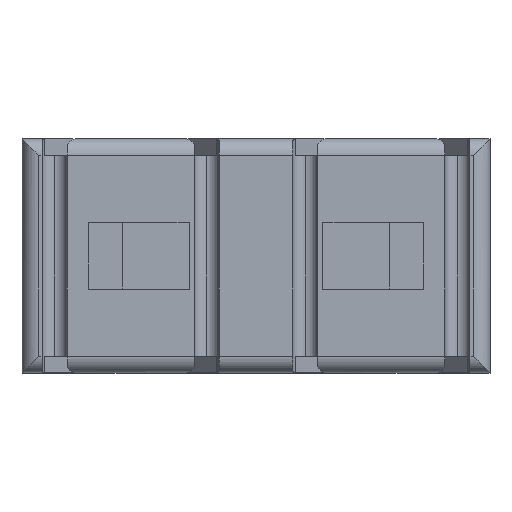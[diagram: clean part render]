
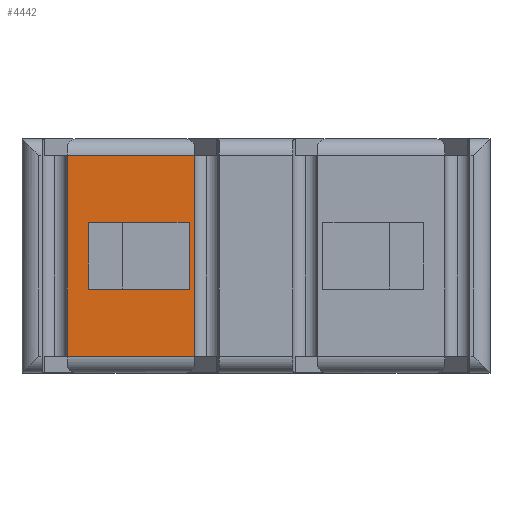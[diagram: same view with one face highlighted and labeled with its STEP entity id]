
A CAD part, top view. The second image highlights one B-rep face of the part: STEP entity #4442.
In plain terms, the highlighted planar face has unit normal (0, 0, 1).
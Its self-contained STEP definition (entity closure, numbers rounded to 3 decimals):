
#14 = VERTEX_POINT ( 'NONE', #2333 ) ;
#15 = LINE ( 'NONE', #3518, #2974 ) ;
#67 = VECTOR ( 'NONE', #3976, 1000. ) ;
#110 = VECTOR ( 'NONE', #3406, 1000. ) ;
#175 = ORIENTED_EDGE ( 'NONE', *, *, #4266, .F. ) ;
#307 = EDGE_CURVE ( 'NONE', #1642, #5678, #15, .T. ) ;
#425 = DIRECTION ( 'NONE',  ( 0., 0., -1. ) ) ;
#570 = DIRECTION ( 'NONE',  ( 0., -1., 0. ) ) ;
#622 = VECTOR ( 'NONE', #570, 1000. ) ;
#715 = VERTEX_POINT ( 'NONE', #1915 ) ;
#886 = DIRECTION ( 'NONE',  ( 0., -1., 0. ) ) ;
#943 = FACE_BOUND ( 'NONE', #1922, .T. ) ;
#1106 = CARTESIAN_POINT ( 'NONE',  ( -10., 2., 42. ) ) ;
#1133 = CARTESIAN_POINT ( 'NONE',  ( 14., 6., 42. ) ) ;
#1179 = DIRECTION ( 'NONE',  ( 0., 1., 0. ) ) ;
#1384 = FACE_OUTER_BOUND ( 'NONE', #2539, .T. ) ;
#1397 = ORIENTED_EDGE ( 'NONE', *, *, #3241, .F. ) ;
#1429 = DIRECTION ( 'NONE',  ( 0., -1., 0. ) ) ;
#1442 = EDGE_CURVE ( 'NONE', #2942, #5678, #1861, .T. ) ;
#1449 = LINE ( 'NONE', #4000, #67 ) ;
#1565 = CARTESIAN_POINT ( 'NONE',  ( -3.7, -6., 42. ) ) ;
#1603 = VECTOR ( 'NONE', #1179, 1000. ) ;
#1642 = VERTEX_POINT ( 'NONE', #1565 ) ;
#1681 = CARTESIAN_POINT ( 'NONE',  ( -11.3, -6., 42. ) ) ;
#1701 = LINE ( 'NONE', #1133, #4506 ) ;
#1808 = ORIENTED_EDGE ( 'NONE', *, *, #4659, .T. ) ;
#1848 = ORIENTED_EDGE ( 'NONE', *, *, #3316, .F. ) ;
#1861 = LINE ( 'NONE', #3248, #3841 ) ;
#1914 = VERTEX_POINT ( 'NONE', #2364 ) ;
#1915 = CARTESIAN_POINT ( 'NONE',  ( -4., 2., 42. ) ) ;
#1922 = EDGE_LOOP ( 'NONE', ( #4304, #175, #4717, #1848 ) ) ;
#2063 = AXIS2_PLACEMENT_3D ( 'NONE', #4389, #425, #886 ) ;
#2333 = CARTESIAN_POINT ( 'NONE',  ( -3.7, 6., 42. ) ) ;
#2364 = CARTESIAN_POINT ( 'NONE',  ( -10., -2., 42. ) ) ;
#2425 = EDGE_CURVE ( 'NONE', #5048, #715, #5143, .T. ) ;
#2539 = EDGE_LOOP ( 'NONE', ( #2653, #3287, #1397, #1808 ) ) ;
#2541 = CARTESIAN_POINT ( 'NONE',  ( -4., 2., 42. ) ) ;
#2569 = LINE ( 'NONE', #2541, #110 ) ;
#2653 = ORIENTED_EDGE ( 'NONE', *, *, #1442, .T. ) ;
#2685 = PLANE ( 'NONE',  #2063 ) ;
#2705 = CARTESIAN_POINT ( 'NONE',  ( -11.3, 6., 42. ) ) ;
#2907 = DIRECTION ( 'NONE',  ( -1., 0., 0. ) ) ;
#2942 = VERTEX_POINT ( 'NONE', #2705 ) ;
#2974 = VECTOR ( 'NONE', #4358, 1000. ) ;
#3241 = EDGE_CURVE ( 'NONE', #14, #1642, #4322, .T. ) ;
#3248 = CARTESIAN_POINT ( 'NONE',  ( -11.3, 7., 42. ) ) ;
#3287 = ORIENTED_EDGE ( 'NONE', *, *, #307, .F. ) ;
#3316 = EDGE_CURVE ( 'NONE', #1914, #5048, #1449, .T. ) ;
#3382 = CARTESIAN_POINT ( 'NONE',  ( -4., -2., 42. ) ) ;
#3392 = CARTESIAN_POINT ( 'NONE',  ( -4., -2., 42. ) ) ;
#3394 = DIRECTION ( 'NONE',  ( 0., -1., 0. ) ) ;
#3406 = DIRECTION ( 'NONE',  ( -1., 0., 0. ) ) ;
#3488 = VECTOR ( 'NONE', #3394, 1000. ) ;
#3518 = CARTESIAN_POINT ( 'NONE',  ( 14., -6., 42. ) ) ;
#3639 = CARTESIAN_POINT ( 'NONE',  ( -10., 2., 42. ) ) ;
#3793 = EDGE_CURVE ( 'NONE', #4523, #1914, #5408, .T. ) ;
#3824 = CARTESIAN_POINT ( 'NONE',  ( -3.7, 7., 42. ) ) ;
#3841 = VECTOR ( 'NONE', #1429, 1000. ) ;
#3976 = DIRECTION ( 'NONE',  ( 1., 0., 0. ) ) ;
#4000 = CARTESIAN_POINT ( 'NONE',  ( -10., -2., 42. ) ) ;
#4266 = EDGE_CURVE ( 'NONE', #715, #4523, #2569, .T. ) ;
#4304 = ORIENTED_EDGE ( 'NONE', *, *, #3793, .F. ) ;
#4322 = LINE ( 'NONE', #3824, #3488 ) ;
#4358 = DIRECTION ( 'NONE',  ( -1., 0., 0. ) ) ;
#4389 = CARTESIAN_POINT ( 'NONE',  ( -14., 7., 42. ) ) ;
#4442 = ADVANCED_FACE ( 'NONE', ( #1384, #943 ), #2685, .F. ) ;
#4506 = VECTOR ( 'NONE', #2907, 1000. ) ;
#4523 = VERTEX_POINT ( 'NONE', #1106 ) ;
#4659 = EDGE_CURVE ( 'NONE', #14, #2942, #1701, .T. ) ;
#4717 = ORIENTED_EDGE ( 'NONE', *, *, #2425, .F. ) ;
#5048 = VERTEX_POINT ( 'NONE', #3392 ) ;
#5143 = LINE ( 'NONE', #3382, #1603 ) ;
#5408 = LINE ( 'NONE', #3639, #622 ) ;
#5678 = VERTEX_POINT ( 'NONE', #1681 ) ;
